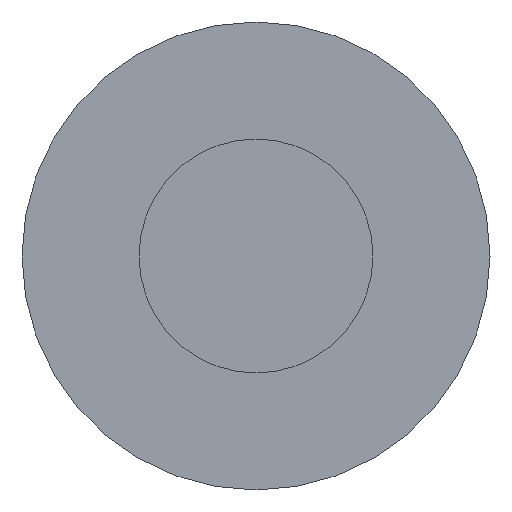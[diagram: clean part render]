
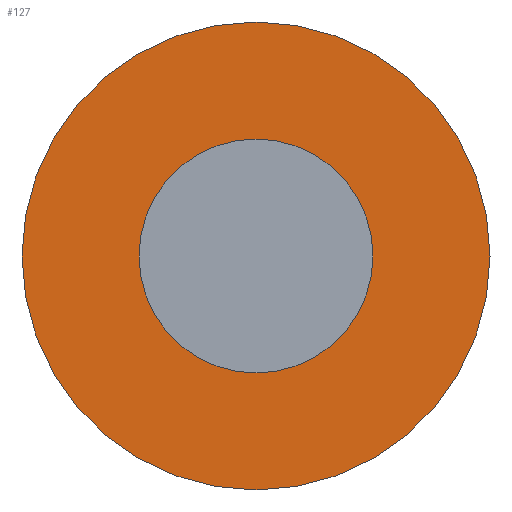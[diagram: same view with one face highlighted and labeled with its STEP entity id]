
A CAD part, front view. The second image highlights one B-rep face of the part: STEP entity #127.
In plain terms, the highlighted planar face has unit normal (0, -1, 0).
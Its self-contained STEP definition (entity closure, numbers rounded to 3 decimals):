
#23=PLANE('',#159);
#31=FACE_OUTER_BOUND('',#40,.T.);
#40=EDGE_LOOP('',(#112));
#62=CIRCLE('',#160,25.);
#72=VERTEX_POINT('',#237);
#86=EDGE_CURVE('',#72,#72,#62,.T.);
#112=ORIENTED_EDGE('',*,*,#86,.F.);
#127=ADVANCED_FACE('',(#31),#23,.T.);
#159=AXIS2_PLACEMENT_3D('',#236,#199,#200);
#160=AXIS2_PLACEMENT_3D('',#238,#201,#202);
#199=DIRECTION('center_axis',(0.,-1.,0.));
#200=DIRECTION('ref_axis',(0.,0.,-1.));
#201=DIRECTION('center_axis',(0.,1.,0.));
#202=DIRECTION('ref_axis',(1.,0.,0.));
#236=CARTESIAN_POINT('Origin',(0.,20.,25.));
#237=CARTESIAN_POINT('',(0.,20.,-25.));
#238=CARTESIAN_POINT('Origin',(0.,20.,0.));
